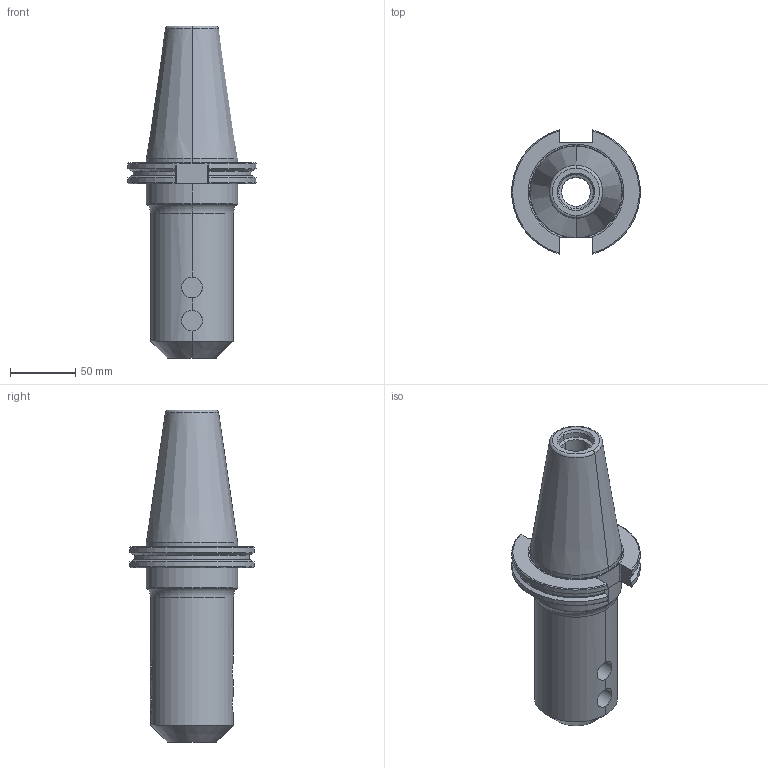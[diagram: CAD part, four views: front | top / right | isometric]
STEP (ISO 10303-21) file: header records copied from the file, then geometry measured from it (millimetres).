
FILE_DESCRIPTION (( 'STEP AP214' ), '1' );
FILE_NAME ('RC5EM12506000.STEP', '2019-02-08T14:40:16', ( '' ), ( '' ), 'SwSTEP 2.0', 'SolidWorks 2019', '' );
FILE_SCHEMA (( 'AUTOMOTIVE_DESIGN' ));
Length unit declared in the file: inch
Products named in the file (1): RC5EM12506000
Bounding box: 98.05 x 94.95 x 254 mm (x, y, z)
Volume: 632601 mm3; surface area: 83793.8 mm2
Topology: 1 solids, 1 shells, 153 faces, 394 edges, 241 vertices
Faces by surface type: plane 50, cylinder 46, cone 41, torus 16
Entity records: 5493 total; most frequent: CARTESIAN_POINT 1709, ORIENTED_EDGE 776, DIRECTION 775, EDGE_CURVE 388, AXIS2_PLACEMENT_3D 305, VERTEX_POINT 241, VECTOR 165, LINE 165
